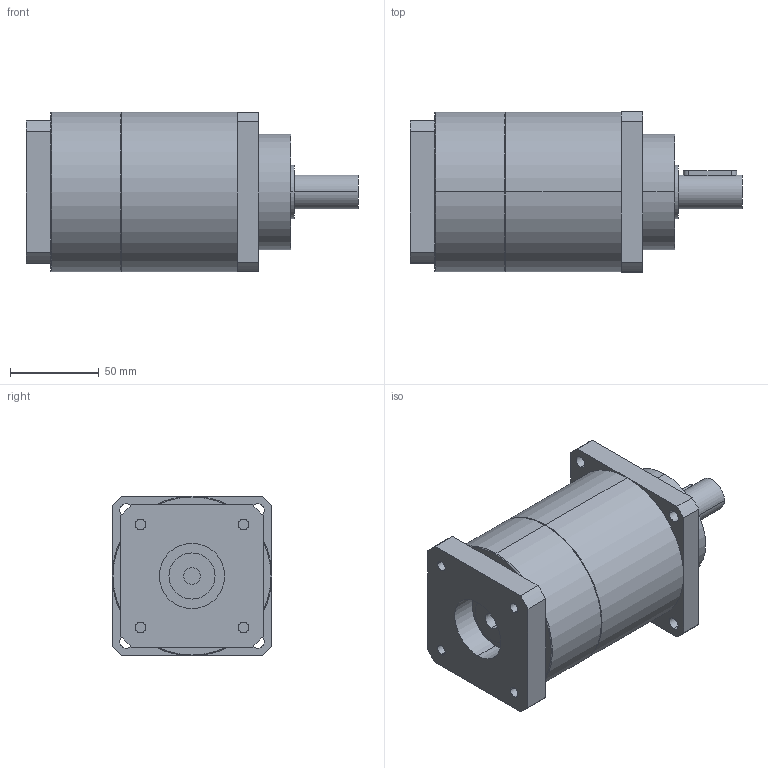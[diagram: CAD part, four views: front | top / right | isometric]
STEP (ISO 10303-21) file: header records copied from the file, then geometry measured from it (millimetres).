
FILE_DESCRIPTION(('CoCreate Modeling STEP Export'),'2;1');
FILE_NAME('GPT90_ig-9-12-16-20-25-28-35-40-50-70-100_19_B5T_9.525_P27.stp','2015-02-04T11:35:22',(''),(''),'CoCreate Modeling STEP processor for AP214 (Solid Model)','CoCreate Modeling 16.00C 25-Feb-2009 (C) Parametric Technology GmbH','');
FILE_SCHEMA(('AUTOMOTIVE_DESIGN { 1 0 10303 214 1 1 1 1 }'));
Length unit declared in the file: millimetre
Products named in the file (2): GPT90_ig-9-12-16-20-25-28-35-40-50-70-100_19_B5T_9.525_P27
Assembly tree (1 placements, depth 2):
  GPT90_ig-9-12-16-20-25-28-35-40-50-70-100_19_B5T_9.525_P27
    GPT90_ig-9-12-16-20-25-28-35-40-50-70-100_19_B5T_9.525_P27
Bounding box: 187 x 90 x 90 mm (x, y, z)
Volume: 905241.5 mm3; surface area: 66737.8 mm2
Topology: 1 solids, 1 shells, 85 faces, 213 edges, 142 vertices
Faces by surface type: cylinder 44, plane 37, cone 4
Entity records: 2624 total; most frequent: CARTESIAN_POINT 742, ORIENTED_EDGE 426, DIRECTION 320, EDGE_CURVE 213, VERTEX_POINT 142, AXIS2_PLACEMENT_3D 117, EDGE_LOOP 105, VECTOR 86
